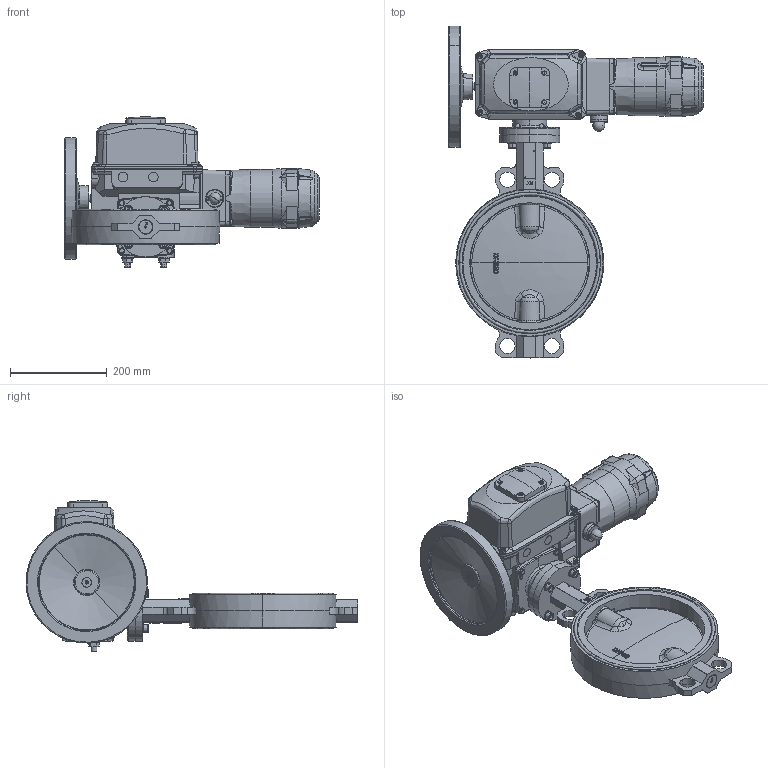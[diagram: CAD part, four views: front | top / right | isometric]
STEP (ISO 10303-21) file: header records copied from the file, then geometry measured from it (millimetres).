
FILE_DESCRIPTION (( 'STEP AP203' ), '1' );
FILE_NAME ('VPI-B24 DN250.step', '2016-09-29T14:58:50', ( 'TECOFI' ), ( '' ), 'SwSTEP 2.0', 'SolidWorks 2014', '' );
FILE_SCHEMA (( 'CONFIG_CONTROL_DESIGN' ));
Products named in the file (1): VPI-B24 DN250
Bounding box: 527.8 x 687.98 x 312.57 mm (x, y, z)
Volume: 13082918.3 mm3; surface area: 966448.3 mm2
Topology: 14 solids, 14 shells, 2264 faces, 5821 edges, 3643 vertices
Faces by surface type: plane 1003, cylinder 438, bspline 380, torus 215, cone 191, sphere 37
Entity records: 99995 total; most frequent: CARTESIAN_POINT 48470, ORIENTED_EDGE 11490, DIRECTION 9638, EDGE_CURVE 5745, VERTEX_POINT 3640, AXIS2_PLACEMENT_3D 3515, LINE 2608, VECTOR 2608
